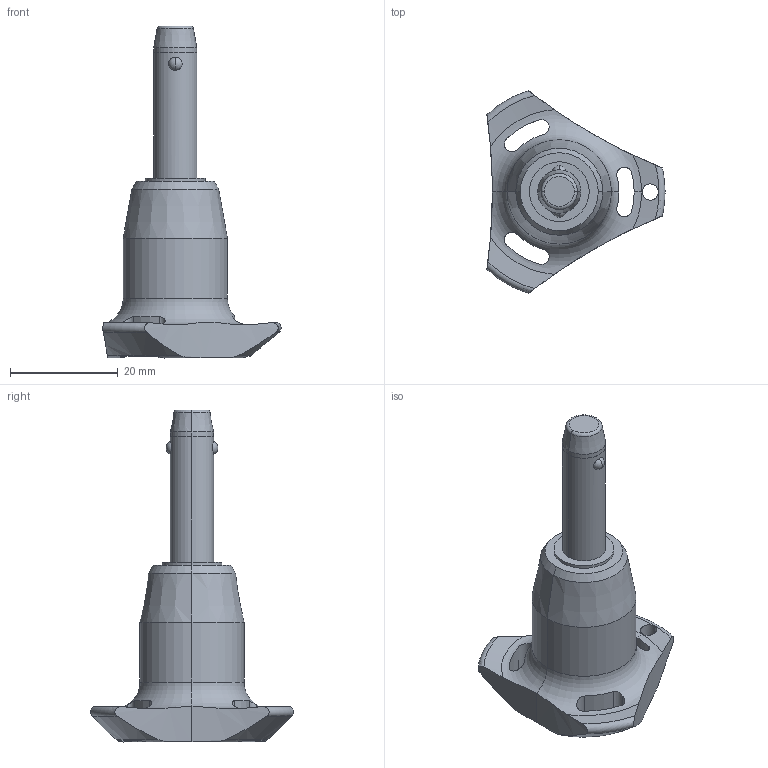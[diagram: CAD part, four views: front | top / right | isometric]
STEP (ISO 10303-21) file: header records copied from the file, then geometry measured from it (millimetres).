
FILE_DESCRIPTION (( 'STEP AP203' ), '1' );
FILE_NAME ('QR1736.M08-020-T.step', '2025-11-13T11:53:42', ( '' ), ( '' ), 'SwSTEP 2.0', 'SolidWorks 2019', '' );
FILE_SCHEMA (( 'CONFIG_CONTROL_DESIGN' ));
Length unit declared in the file: millimetre
Products named in the file (1): QR1736.M08-020-T
Bounding box: 33 x 37.51 x 61.5 mm (x, y, z)
Volume: 11655.3 mm3; surface area: 4557.4 mm2
Topology: 1 solids, 1 shells, 68 faces, 180 edges, 113 vertices
Faces by surface type: cylinder 32, cone 14, torus 11, sphere 6, plane 5
Entity records: 2826 total; most frequent: CARTESIAN_POINT 1086, ORIENTED_EDGE 360, DIRECTION 347, EDGE_CURVE 180, AXIS2_PLACEMENT_3D 154, VERTEX_POINT 113, CIRCLE 85, EDGE_LOOP 75
